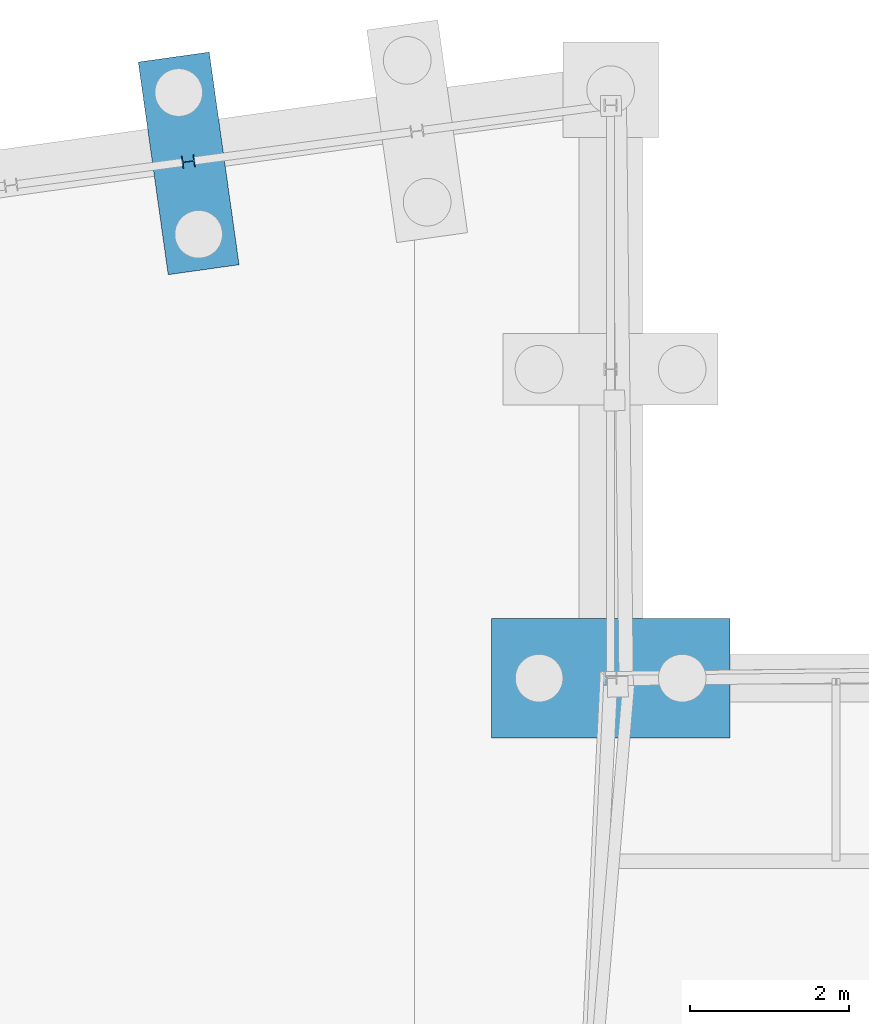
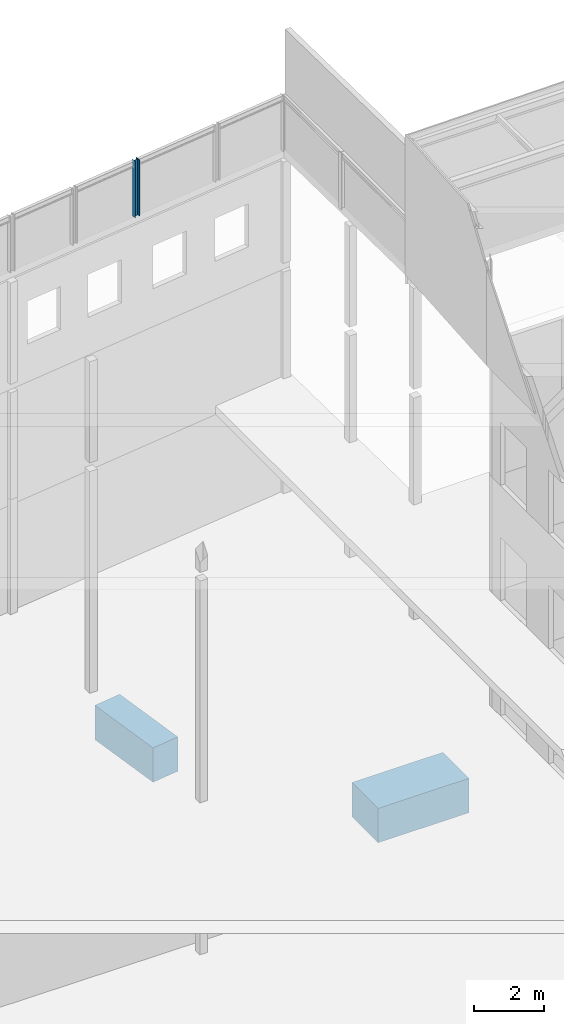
# One storey, part 31 of 82: 3 columns.
"""IFC2X3 building model written with IfcOpenShell, lengths in millimetres."""

from ifc_helpers import new_model, si_unit, frame, frame_2d, origin_with_axes, place, context, subcontext, project, spatial, rectangle, i_section, extrude, material, type_object, element, save


model = new_model("IFC2X3")

# Units and contexts
model_context = context("Model", 3, precision=1e-05, world=origin_with_axes())
body_context = subcontext(model_context, "Body", "Model", "MODEL_VIEW")
ifc_project = project(units=[si_unit("LENGTHUNIT", "METRE", prefix="MILLI"), si_unit("AREAUNIT", "SQUARE_METRE"), si_unit("VOLUMEUNIT", "CUBIC_METRE"), si_unit("MASSUNIT", "GRAM", prefix="KILO"), si_unit("TIMEUNIT", "SECOND"), si_unit("PLANEANGLEUNIT", "RADIAN"), si_unit("SOLIDANGLEUNIT", "STERADIAN"), si_unit("THERMODYNAMICTEMPERATUREUNIT", "DEGREE_CELSIUS"), si_unit("LUMINOUSINTENSITYUNIT", "LUMEN")], contexts=[model_context])

# Site, building, storey
site_placement = place(None, origin_with_axes())
site = spatial("IfcSite", under=ifc_project, at=site_placement, Name="Undefined", CompositionType="ELEMENT")
building_placement = place(site_placement, origin_with_axes())
building = spatial("IfcBuilding", under=site, at=building_placement, Name="Undefined", CompositionType="ELEMENT")
storey_placement = place(building_placement, origin_with_axes())
storey = spatial("IfcBuildingStorey", under=building, at=storey_placement, Name="Undefined", CompositionType="ELEMENT", Elevation=0.0)

# Columns
ifc_material_1 = material(Name="STEEL/S275JR")
column_type_1 = type_object("IfcColumnType", Name="HEB160", PredefinedType="NOTDEFINED")
column_1_placement = place(storey_placement, frame((23939.9998779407, 30040.8750101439, 17160.0), z_axis=(0.0, 0.0, 1.0), x_axis=(1.0, 0.0, 0.0)))
element("IfcColumn", 1, at=column_1_placement, inside=storey, type_object=column_type_1, material=ifc_material_1, Name="POTEAU", ObjectType="HEB160", context=body_context, shape_type="SweptSolid", body=[
    extrude(i_section(OverallWidth=160.0, OverallDepth=160.0, WebThickness=8.0, FlangeThickness=13.0, FilletRadius=15.0, at=frame_2d((5.17284206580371e-08, 4.49290382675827e-10), x_axis=(1.0, 0.0))), frame((0.0, 0.0, 1965.0), z_axis=(0.0, -6.50000002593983e-08, -0.999999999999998), x_axis=(0.132256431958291, -0.991215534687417, 0.0)), (0.0, 0.0, 1.0), 1965.0),
])
ifc_material_2 = material(Name="CONCRETE/C30/37")
column_type_2 = type_object("IfcColumnType", Name="3000*1500", PredefinedType="NOTDEFINED")
column_2_placement = place(storey_placement, frame((29249.9983214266, 23544.9995727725, -1649.97), z_axis=(0.0, 0.0, 1.0), x_axis=(1.0, 0.0, 0.0)))
element("IfcColumn", 2, at=column_2_placement, inside=storey, type_object=column_type_2, material=ifc_material_2, Name="SEMELLE", ObjectType="3000*1500", context=body_context, shape_type="SweptSolid", body=[
    extrude(rectangle(XDim=1500.0, YDim=3000.0, at=frame_2d((5.17284206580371e-08, 4.49290382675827e-10), x_axis=(1.0, 0.0))), frame((0.0, 0.0, 1199.97), z_axis=(0.0, -6.50000002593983e-08, -0.999999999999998), x_axis=(2.09600000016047e-06, -0.999999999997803, 0.0)), (0.0, 0.0, 1.0), 1200.0),
])
column_type_3 = type_object("IfcColumnType", Name="2700*900", PredefinedType="NOTDEFINED")
column_3_placement = place(storey_placement, frame((23944.3857239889, 30018.5377146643, -1650.03), z_axis=(0.0, 0.0, 1.0), x_axis=(1.0, 0.0, 0.0)))
element("IfcColumn", 3, at=column_3_placement, inside=storey, type_object=column_type_3, material=ifc_material_2, Name="SEMELLE", ObjectType="2700*900", context=body_context, shape_type="SweptSolid", body=[
    extrude(rectangle(XDim=900.0, YDim=2700.0, at=frame_2d((5.17284206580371e-08, 4.49290382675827e-10), x_axis=(1.0, 0.0))), frame((0.0, 0.0, 1200.03), z_axis=(0.0, -6.50000002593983e-08, -0.999999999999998), x_axis=(-0.990268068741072, -0.13917310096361, 0.0)), (0.0, 0.0, 1.0), 1200.0),
])

save(model, "model.ifc")
